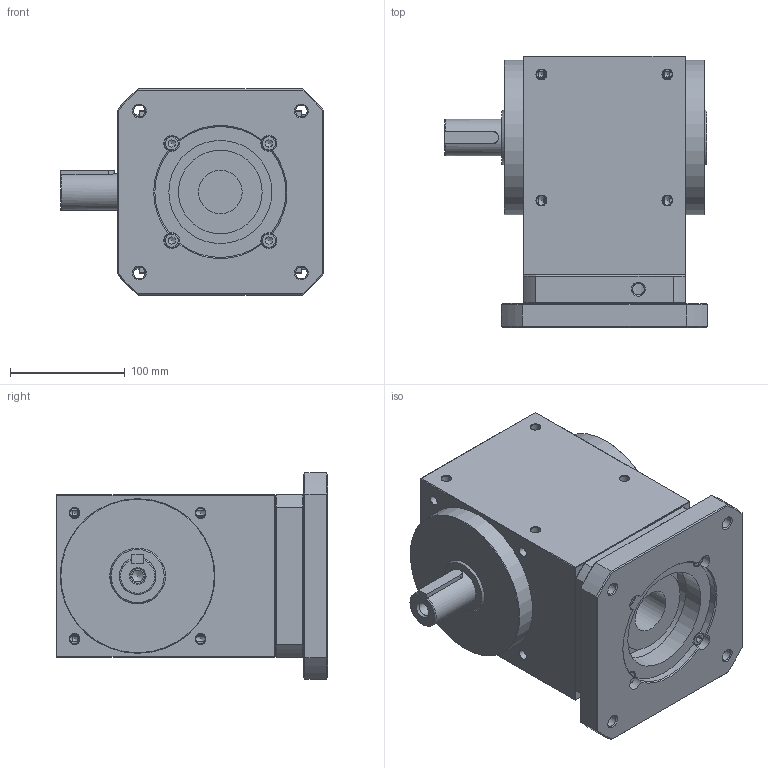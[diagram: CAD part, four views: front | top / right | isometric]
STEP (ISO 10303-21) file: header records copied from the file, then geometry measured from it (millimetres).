
FILE_DESCRIPTION((''),'2;1');
FILE_NAME('D:\유성\SBT 베벨기어박스\최종도면모음\3D\SBT142\SBT142MLS001K.stp','2014-05-20T18:48:54',('nagyu'),(''),'Autodesk Inventor 2013','Autodesk Inventor 2013','');
FILE_SCHEMA(('AUTOMOTIVE_DESIGN { 1 0 10303 214 1 1 1 1 }'));
Length unit declared in the file: millimetre
Products named in the file (1): SBT142MLS001K_Shrinkwrap_1
Bounding box: 229.5 x 237 x 180 mm (x, y, z)
Volume: 5171027.7 mm3; surface area: 278129.4 mm2
Topology: 1 solids, 15 shells, 444 faces, 1013 edges, 591 vertices
Faces by surface type: cylinder 176, plane 128, cone 126, torus 9, bspline 5
Full cylindrical faces by diameter (mm): 6.647 x4, 8 x4, 8.376 x20, 8.7 x8, 10 x2, 10.106 x6, 12.5 x1, 13 x4, 14 x8, 32 x1, 38 x1, 73 x1, 90 x1, 100 x2, 120 x2, 135 x2
Entity records: 12427 total; most frequent: CARTESIAN_POINT 3688, DIRECTION 1910, ORIENTED_EDGE 1522, AXIS2_PLACEMENT_3D 864, EDGE_CURVE 761, EDGE_LOOP 631, VERTEX_POINT 488, FACE_OUTER_BOUND 444
